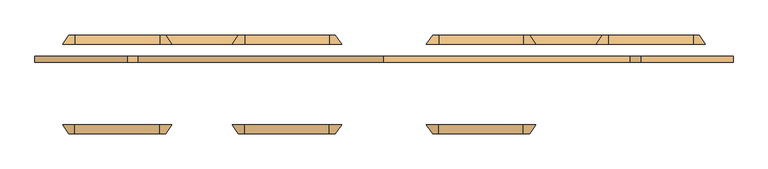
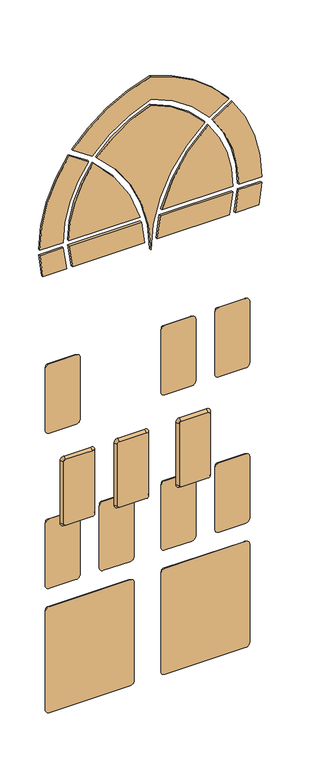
"""IFC4 building model written with IfcOpenShell, lengths in millimetres: door geometry, ETC Arabic Door : ETC Arabic Door."""

from ifc_helpers import new_model, si_unit, point, frame, frame_2d, origin, place, context, project, spatial, polyline, circle_curve, trimmed, segment, composite_curve, outline, extrude, source, transform, mapped, element, save
from ifc_brep_helpers import plane_surface, revolved_surface, advanced_brep


def door_a8ad100a(model_context):
    return source(origin(), model_context, "Body", "SolidModel", [
        advanced_brep(
        [(-370.0, 172.5, 1610.0), (-510.0, 172.5, 1610.0), (-520.0, 172.5, 1620.0), (-520.0, 172.5, 1960.0), (-510.0, 172.5, 1970.0), (-370.0, 172.5, 1970.0), (-360.0, 172.5, 1960.0), (-360.0, 172.5, 1620.0), (-370.0, 157.5, 1600.0), (-350.0, 157.5, 1620.0), (-350.0, 157.5, 1960.0), (-370.0, 157.5, 1980.0), (-510.0, 157.5, 1980.0), (-530.0, 157.5, 1960.0), (-530.0, 157.5, 1620.0), (-510.0, 157.5, 1600.0)],
        [
            (0, 1),
            (1, 2, circle_curve(frame((-510.0, 172.5, 1620.0), z_axis=(0.0, 1.0, 0.0), x_axis=(0.0, 0.0, -1.0)), 10.0)),
            (2, 3),
            (3, 4, circle_curve(frame((-510.0, 172.5, 1960.0), z_axis=(0.0, 1.0, 0.0), x_axis=(-1.0, 0.0, 0.0)), 10.0)),
            (4, 5),
            (5, 6, circle_curve(frame((-370.0, 172.5, 1960.0), z_axis=(0.0, 1.0, 0.0), x_axis=(0.0, 0.0, 1.0)), 10.0)),
            (6, 7),
            (7, 0, circle_curve(frame((-370.0, 172.5, 1620.0), z_axis=(0.0, 1.0, 0.0), x_axis=(1.0, 0.0, 0.0)), 10.0)),
            (8, 9, circle_curve(frame((-370.0, 157.5, 1620.0), z_axis=(0.0, -1.0, 0.0), x_axis=(1.0, 0.0, 0.0)), 20.0)),
            (9, 10),
            (10, 11, circle_curve(frame((-370.0, 157.5, 1960.0), z_axis=(0.0, -1.0, 0.0), x_axis=(0.0, 0.0, 1.0)), 20.0)),
            (11, 12),
            (12, 13, circle_curve(frame((-510.0, 157.5, 1960.0), z_axis=(0.0, -1.0, 0.0), x_axis=(-1.0, 0.0, 0.0)), 20.0)),
            (13, 14),
            (14, 15, circle_curve(frame((-510.0, 157.5, 1620.0), z_axis=(0.0, -1.0, 0.0), x_axis=(0.0, 0.0, -1.0)), 20.0)),
            (15, 8),
            (15, 1),
            (0, 8),
            (14, 2),
            (13, 3),
            (12, 4),
            (11, 5),
            (10, 6),
            (9, 7),
        ],
        [
            plane_surface(frame((-440.0, 172.5, 1790.0), z_axis=(0.0, 1.0, 0.0), x_axis=(1.0, 0.0, 0.0))),
            plane_surface(frame((-440.0, 157.5, 1790.0), z_axis=(0.0, -1.0, 0.0), x_axis=(1.0, 0.0, 0.0))),
            plane_surface(frame((-440.0, 157.5, 1600.0), z_axis=(0.0, 0.5547001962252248, -0.8320502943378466), x_axis=(-1.0, 0.0, 0.0))),
            revolved_surface(polyline([(-510.0, 172.5, 1610.0), (-510.0, 157.5, 1600.0)]), (-510.0, 187.5, 1620.0), (0.0, -1.0, 0.0)),
            plane_surface(frame((-530.0, 157.5, 1790.0), z_axis=(-0.8320502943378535, 0.5547001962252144, 0.0), x_axis=(0.0, 0.0, 1.0))),
            revolved_surface(polyline([(-520.0, 172.5, 1960.0), (-530.0, 157.5, 1960.0)]), (-510.0, 187.5, 1960.0), (0.0, -1.0, 0.0)),
            plane_surface(frame((-440.0, 157.5, 1980.0), z_axis=(0.0, 0.5547001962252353, 0.8320502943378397), x_axis=(1.0, 0.0, 0.0))),
            revolved_surface(polyline([(-370.0, 172.5, 1970.0), (-370.0, 157.5, 1980.0)]), (-370.0, 187.5, 1960.0), (0.0, -1.0, 0.0)),
            plane_surface(frame((-350.0, 157.5, 1790.0), z_axis=(0.832050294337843, 0.55470019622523, 0.0), x_axis=(0.0, 0.0, -1.0))),
            revolved_surface(polyline([(-360.0, 172.5, 1620.0), (-350.0, 157.5, 1620.0)]), (-370.0, 187.5, 1620.0), (0.0, -1.0, 0.0)),
        ],
        [
            (0, [[1, 2, 3, 4, 5, 6, 7, 8]]),
            (1, [[9, 10, 11, 12, 13, 14, 15, 16]]),
            (2, [[-16, 17, -1, 18]]),
            (3, [[-15, 19, -2, -17]]),
            (4, [[-14, 20, -3, -19]]),
            (5, [[-13, 21, -4, -20]]),
            (6, [[-12, 22, -5, -21]]),
            (7, [[-11, 23, -6, -22]]),
            (8, [[-10, 24, -7, -23]]),
            (9, [[-9, -18, -8, -24]]),
        ],
    ),
        advanced_brep(
        [(-90.0, 172.5, 760.0), (-230.0, 172.5, 760.0), (-240.0, 172.5, 770.0), (-240.0, 172.5, 1110.0), (-230.0, 172.5, 1120.0), (-90.0, 172.5, 1120.0), (-80.0, 172.5, 1110.0), (-80.0, 172.5, 770.0), (-90.0, 157.5, 750.0), (-70.0, 157.5, 770.0), (-70.0, 157.5, 1110.0), (-90.0, 157.5, 1130.0), (-230.0, 157.5, 1130.0), (-250.0, 157.5, 1110.0), (-250.0, 157.5, 770.0), (-230.0, 157.5, 750.0)],
        [
            (0, 1),
            (1, 2, circle_curve(frame((-230.0, 172.5, 770.0), z_axis=(0.0, 1.0, 0.0), x_axis=(0.0, 0.0, -1.0)), 10.0)),
            (2, 3),
            (3, 4, circle_curve(frame((-230.0, 172.5, 1110.0), z_axis=(0.0, 1.0, 0.0), x_axis=(-1.0, 0.0, 0.0)), 10.0)),
            (4, 5),
            (5, 6, circle_curve(frame((-90.0, 172.5, 1110.0), z_axis=(0.0, 1.0, 0.0), x_axis=(0.0, 0.0, 1.0)), 10.0)),
            (6, 7),
            (7, 0, circle_curve(frame((-90.0, 172.5, 770.0), z_axis=(0.0, 1.0, 0.0), x_axis=(1.0, 0.0, 0.0)), 10.0)),
            (8, 9, circle_curve(frame((-90.0, 157.5, 770.0), z_axis=(0.0, -1.0, 0.0), x_axis=(1.0, 0.0, 0.0)), 20.0)),
            (9, 10),
            (10, 11, circle_curve(frame((-90.0, 157.5, 1110.0), z_axis=(0.0, -1.0, 0.0), x_axis=(0.0, 0.0, 1.0)), 20.0)),
            (11, 12),
            (12, 13, circle_curve(frame((-230.0, 157.5, 1110.0), z_axis=(0.0, -1.0, 0.0), x_axis=(-1.0, 0.0, 0.0)), 20.0)),
            (13, 14),
            (14, 15, circle_curve(frame((-230.0, 157.5, 770.0), z_axis=(0.0, -1.0, 0.0), x_axis=(0.0, 0.0, -1.0)), 20.0)),
            (15, 8),
            (15, 1),
            (0, 8),
            (14, 2),
            (13, 3),
            (12, 4),
            (11, 5),
            (10, 6),
            (9, 7),
        ],
        [
            plane_surface(frame((-160.0, 172.5, 940.0), z_axis=(0.0, 1.0, 0.0), x_axis=(1.0, 0.0, 0.0))),
            plane_surface(frame((-160.0, 157.5, 940.0), z_axis=(0.0, -1.0, 0.0), x_axis=(1.0, 0.0, 0.0))),
            plane_surface(frame((-160.0, 157.5, 750.0), z_axis=(0.0, 0.5547001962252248, -0.8320502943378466), x_axis=(-1.0, 0.0, 0.0))),
            revolved_surface(polyline([(-230.0, 172.5, 760.0), (-230.0, 157.5, 750.0)]), (-230.0, 187.5, 770.0), (0.0, -1.0, 0.0)),
            plane_surface(frame((-250.0, 157.5, 940.0), z_axis=(-0.8320502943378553, 0.5547001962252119, 0.0), x_axis=(0.0, 0.0, 1.0))),
            revolved_surface(polyline([(-240.0, 172.5, 1110.0), (-250.0, 157.5, 1110.0)]), (-230.0, 187.5, 1110.0), (0.0, -1.0, 0.0)),
            plane_surface(frame((-160.0, 157.5, 1130.0), z_axis=(0.0, 0.5547001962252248, 0.8320502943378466), x_axis=(1.0, 0.0, 0.0))),
            revolved_surface(polyline([(-90.0, 172.5, 1120.0), (-90.0, 157.5, 1130.0)]), (-90.0, 187.5, 1110.0), (0.0, -1.0, 0.0)),
            plane_surface(frame((-70.0, 157.5, 940.0), z_axis=(0.832050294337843, 0.55470019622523, 0.0), x_axis=(0.0, 0.0, -1.0))),
            revolved_surface(polyline([(-80.0, 172.5, 770.0), (-70.0, 157.5, 770.0)]), (-90.0, 187.5, 770.0), (0.0, -1.0, 0.0)),
        ],
        [
            (0, [[1, 2, 3, 4, 5, 6, 7, 8]]),
            (1, [[9, 10, 11, 12, 13, 14, 15, 16]]),
            (2, [[-16, 17, -1, 18]]),
            (3, [[-15, 19, -2, -17]]),
            (4, [[-14, 20, -3, -19]]),
            (5, [[-13, 21, -4, -20]]),
            (6, [[-12, 22, -5, -21]]),
            (7, [[-11, 23, -6, -22]]),
            (8, [[-10, 24, -7, -23]]),
            (9, [[-9, -18, -8, -24]]),
        ],
    ),
        advanced_brep(
        [(-370.0, 172.5, 760.0), (-510.0, 172.5, 760.0), (-520.0, 172.5, 770.0), (-520.0, 172.5, 1110.0), (-510.0, 172.5, 1120.0), (-370.0, 172.5, 1120.0), (-360.0, 172.5, 1110.0), (-360.0, 172.5, 770.0), (-370.0, 157.5, 750.0), (-350.0, 157.5, 770.0), (-350.0, 157.5, 1110.0), (-370.0, 157.5, 1130.0), (-510.0, 157.5, 1130.0), (-530.0, 157.5, 1110.0), (-530.0, 157.5, 770.0), (-510.0, 157.5, 750.0)],
        [
            (0, 1),
            (1, 2, circle_curve(frame((-510.0, 172.5, 770.0), z_axis=(0.0, 1.0, 0.0), x_axis=(0.0, 0.0, -1.0)), 10.0)),
            (2, 3),
            (3, 4, circle_curve(frame((-510.0, 172.5, 1110.0), z_axis=(0.0, 1.0, 0.0), x_axis=(-1.0, 0.0, 0.0)), 10.0)),
            (4, 5),
            (5, 6, circle_curve(frame((-370.0, 172.5, 1110.0), z_axis=(0.0, 1.0, 0.0), x_axis=(0.0, 0.0, 1.0)), 10.0)),
            (6, 7),
            (7, 0, circle_curve(frame((-370.0, 172.5, 770.0), z_axis=(0.0, 1.0, 0.0), x_axis=(1.0, 0.0, 0.0)), 10.0)),
            (8, 9, circle_curve(frame((-370.0, 157.5, 770.0), z_axis=(0.0, -1.0, 0.0), x_axis=(1.0, 0.0, 0.0)), 20.0)),
            (9, 10),
            (10, 11, circle_curve(frame((-370.0, 157.5, 1110.0), z_axis=(0.0, -1.0, 0.0), x_axis=(0.0, 0.0, 1.0)), 20.0)),
            (11, 12),
            (12, 13, circle_curve(frame((-510.0, 157.5, 1110.0), z_axis=(0.0, -1.0, 0.0), x_axis=(-1.0, 0.0, 0.0)), 20.0)),
            (13, 14),
            (14, 15, circle_curve(frame((-510.0, 157.5, 770.0), z_axis=(0.0, -1.0, 0.0), x_axis=(0.0, 0.0, -1.0)), 20.0)),
            (15, 8),
            (15, 1),
            (0, 8),
            (14, 2),
            (13, 3),
            (12, 4),
            (11, 5),
            (10, 6),
            (9, 7),
        ],
        [
            plane_surface(frame((-440.0, 172.5, 940.0), z_axis=(0.0, 1.0, 0.0), x_axis=(1.0, 0.0, 0.0))),
            plane_surface(frame((-440.0, 157.5, 940.0), z_axis=(0.0, -1.0, 0.0), x_axis=(1.0, 0.0, 0.0))),
            plane_surface(frame((-440.0, 157.5, 750.0), z_axis=(0.0, 0.5547001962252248, -0.8320502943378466), x_axis=(-1.0, 0.0, 0.0))),
            revolved_surface(polyline([(-510.0, 172.5, 760.0), (-510.0, 157.5, 750.0)]), (-510.0, 187.5, 770.0), (0.0, -1.0, 0.0)),
            plane_surface(frame((-530.0, 157.5, 940.0), z_axis=(-0.8320502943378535, 0.5547001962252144, 0.0), x_axis=(0.0, 0.0, 1.0))),
            revolved_surface(polyline([(-520.0, 172.5, 1110.0), (-530.0, 157.5, 1110.0)]), (-510.0, 187.5, 1110.0), (0.0, -1.0, 0.0)),
            plane_surface(frame((-440.0, 157.5, 1130.0), z_axis=(0.0, 0.5547001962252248, 0.8320502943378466), x_axis=(1.0, 0.0, 0.0))),
            revolved_surface(polyline([(-370.0, 172.5, 1120.0), (-370.0, 157.5, 1130.0)]), (-370.0, 187.5, 1110.0), (0.0, -1.0, 0.0)),
            plane_surface(frame((-350.0, 157.5, 940.0), z_axis=(0.832050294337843, 0.55470019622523, 0.0), x_axis=(0.0, 0.0, -1.0))),
            revolved_surface(polyline([(-360.0, 172.5, 770.0), (-350.0, 157.5, 770.0)]), (-370.0, 187.5, 770.0), (0.0, -1.0, 0.0)),
        ],
        [
            (0, [[1, 2, 3, 4, 5, 6, 7, 8]]),
            (1, [[9, 10, 11, 12, 13, 14, 15, 16]]),
            (2, [[-16, 17, -1, 18]]),
            (3, [[-15, 19, -2, -17]]),
            (4, [[-14, 20, -3, -19]]),
            (5, [[-13, 21, -4, -20]]),
            (6, [[-12, 22, -5, -21]]),
            (7, [[-11, 23, -6, -22]]),
            (8, [[-10, 24, -7, -23]]),
            (9, [[-9, -18, -8, -24]]),
        ],
    ),
        advanced_brep(
        [(90.0, 172.5, 1610.0), (80.0, 172.5, 1620.0), (80.0, 172.5, 1960.0), (90.0, 172.5, 1970.0), (230.0, 172.5, 1970.0), (240.0, 172.5, 1960.0), (240.0, 172.5, 1620.0), (230.0, 172.5, 1610.0), (90.0, 157.5, 1600.0), (230.0, 157.5, 1600.0), (250.0, 157.5, 1620.0), (250.0, 157.5, 1960.0), (230.0, 157.5, 1980.0), (90.0, 157.5, 1980.0), (70.0, 157.5, 1960.0), (70.0, 157.5, 1620.0)],
        [
            (0, 1, circle_curve(frame((90.0, 172.5, 1620.0), z_axis=(0.0, 1.0, 0.0), x_axis=(0.0, 0.0, -1.0)), 10.0)),
            (1, 2),
            (2, 3, circle_curve(frame((90.0, 172.5, 1960.0), z_axis=(0.0, 1.0, 0.0), x_axis=(-1.0, 0.0, 0.0)), 10.0)),
            (3, 4),
            (4, 5, circle_curve(frame((230.0, 172.5, 1960.0), z_axis=(0.0, 1.0, 0.0), x_axis=(0.0, 0.0, 1.0)), 10.0)),
            (5, 6),
            (6, 7, circle_curve(frame((230.0, 172.5, 1620.0), z_axis=(0.0, 1.0, 0.0), x_axis=(1.0, 0.0, 0.0)), 10.0)),
            (7, 0),
            (8, 9),
            (9, 10, circle_curve(frame((230.0, 157.5, 1620.0), z_axis=(0.0, -1.0, 0.0), x_axis=(1.0, 0.0, 0.0)), 20.0)),
            (10, 11),
            (11, 12, circle_curve(frame((230.0, 157.5, 1960.0), z_axis=(0.0, -1.0, 0.0), x_axis=(0.0, 0.0, 1.0)), 20.0)),
            (12, 13),
            (13, 14, circle_curve(frame((90.0, 157.5, 1960.0), z_axis=(0.0, -1.0, 0.0), x_axis=(-1.0, 0.0, 0.0)), 20.0)),
            (14, 15),
            (15, 8, circle_curve(frame((90.0, 157.5, 1620.0), z_axis=(0.0, -1.0, 0.0), x_axis=(0.0, 0.0, -1.0)), 20.0)),
            (15, 1),
            (0, 8),
            (14, 2),
            (13, 3),
            (12, 4),
            (11, 5),
            (10, 6),
            (9, 7),
        ],
        [
            plane_surface(frame((160.0, 172.5, 1790.0), z_axis=(0.0, 1.0, 0.0), x_axis=(1.0, 0.0, 0.0))),
            plane_surface(frame((160.0, 157.5, 1790.0), z_axis=(0.0, -1.0, 0.0), x_axis=(1.0, 0.0, 0.0))),
            revolved_surface(polyline([(90.0, 172.5, 1610.0), (90.0, 157.5, 1600.0)]), (90.0, 187.5, 1620.0), (0.0, -1.0, 0.0)),
            plane_surface(frame((70.0, 157.5, 1790.0), z_axis=(-0.832050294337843, 0.55470019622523, 0.0), x_axis=(0.0, 0.0, 1.0))),
            revolved_surface(polyline([(80.0, 172.5, 1960.0), (70.0, 157.5, 1960.0)]), (90.0, 187.5, 1960.0), (0.0, -1.0, 0.0)),
            plane_surface(frame((160.0, 157.5, 1980.0), z_axis=(0.0, 0.5547001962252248, 0.8320502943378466), x_axis=(1.0, 0.0, 0.0))),
            revolved_surface(polyline([(230.0, 172.5, 1970.0), (230.0, 157.5, 1980.0)]), (230.0, 187.5, 1960.0), (0.0, -1.0, 0.0)),
            plane_surface(frame((250.0, 157.5, 1790.0), z_axis=(0.8320502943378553, 0.5547001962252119, 0.0), x_axis=(0.0, 0.0, -1.0))),
            revolved_surface(polyline([(240.0, 172.5, 1620.0), (250.0, 157.5, 1620.0)]), (230.0, 187.5, 1620.0), (0.0, -1.0, 0.0)),
            plane_surface(frame((160.0, 157.5, 1600.0), z_axis=(0.0, 0.5547001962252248, -0.8320502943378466), x_axis=(-1.0, 0.0, 0.0))),
        ],
        [
            (0, [[1, 2, 3, 4, 5, 6, 7, 8]]),
            (1, [[9, 10, 11, 12, 13, 14, 15, 16]]),
            (2, [[-16, 17, -1, 18]]),
            (3, [[-15, 19, -2, -17]]),
            (4, [[-14, 20, -3, -19]]),
            (5, [[-13, 21, -4, -20]]),
            (6, [[-12, 22, -5, -21]]),
            (7, [[-11, 23, -6, -22]]),
            (8, [[-10, 24, -7, -23]]),
            (9, [[-9, -18, -8, -24]]),
        ],
    ),
        advanced_brep(
        [(370.0, 172.5, 1610.0), (360.0, 172.5, 1620.0), (360.0, 172.5, 1960.0), (370.0, 172.5, 1970.0), (510.0, 172.5, 1970.0), (520.0, 172.5, 1960.0), (520.0, 172.5, 1620.0), (510.0, 172.5, 1610.0), (370.0, 157.5, 1600.0), (510.0, 157.5, 1600.0), (530.0, 157.5, 1620.0), (530.0, 157.5, 1960.0), (510.0, 157.5, 1980.0), (370.0, 157.5, 1980.0), (350.0, 157.5, 1960.0), (350.0, 157.5, 1620.0)],
        [
            (0, 1, circle_curve(frame((370.0, 172.5, 1620.0), z_axis=(0.0, 1.0, 0.0), x_axis=(0.0, 0.0, -1.0)), 10.0)),
            (1, 2),
            (2, 3, circle_curve(frame((370.0, 172.5, 1960.0), z_axis=(0.0, 1.0, 0.0), x_axis=(-1.0, 0.0, 0.0)), 10.0)),
            (3, 4),
            (4, 5, circle_curve(frame((510.0, 172.5, 1960.0), z_axis=(0.0, 1.0, 0.0), x_axis=(0.0, 0.0, 1.0)), 10.0)),
            (5, 6),
            (6, 7, circle_curve(frame((510.0, 172.5, 1620.0), z_axis=(0.0, 1.0, 0.0), x_axis=(1.0, 0.0, 0.0)), 10.0)),
            (7, 0),
            (8, 9),
            (9, 10, circle_curve(frame((510.0, 157.5, 1620.0), z_axis=(0.0, -1.0, 0.0), x_axis=(1.0, 0.0, 0.0)), 20.0)),
            (10, 11),
            (11, 12, circle_curve(frame((510.0, 157.5, 1960.0), z_axis=(0.0, -1.0, 0.0), x_axis=(0.0, 0.0, 1.0)), 20.0)),
            (12, 13),
            (13, 14, circle_curve(frame((370.0, 157.5, 1960.0), z_axis=(0.0, -1.0, 0.0), x_axis=(-1.0, 0.0, 0.0)), 20.0)),
            (14, 15),
            (15, 8, circle_curve(frame((370.0, 157.5, 1620.0), z_axis=(0.0, -1.0, 0.0), x_axis=(0.0, 0.0, -1.0)), 20.0)),
            (15, 1),
            (0, 8),
            (14, 2),
            (13, 3),
            (12, 4),
            (11, 5),
            (10, 6),
            (9, 7),
        ],
        [
            plane_surface(frame((440.0, 172.5, 1790.0), z_axis=(0.0, 1.0, 0.0), x_axis=(1.0, 0.0, 0.0))),
            plane_surface(frame((440.0, 157.5, 1790.0), z_axis=(0.0, -1.0, 0.0), x_axis=(1.0, 0.0, 0.0))),
            revolved_surface(polyline([(370.0, 172.5, 1610.0), (370.0, 157.5, 1600.0)]), (370.0, 187.5, 1620.0), (0.0, -1.0, 0.0)),
            plane_surface(frame((350.0, 157.5, 1790.0), z_axis=(-0.832050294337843, 0.55470019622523, 0.0), x_axis=(0.0, 0.0, 1.0))),
            revolved_surface(polyline([(360.0, 172.5, 1960.0), (350.0, 157.5, 1960.0)]), (370.0, 187.5, 1960.0), (0.0, -1.0, 0.0)),
            plane_surface(frame((440.0, 157.5, 1980.0), z_axis=(0.0, 0.5547001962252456, 0.8320502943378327), x_axis=(1.0, 0.0, 0.0))),
            revolved_surface(polyline([(510.0, 172.5, 1970.0), (510.0, 157.5, 1980.0)]), (510.0, 187.5, 1960.0), (0.0, -1.0, 0.0)),
            plane_surface(frame((530.0, 157.5, 1790.0), z_axis=(0.8320502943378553, 0.5547001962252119, 0.0), x_axis=(0.0, 0.0, -1.0))),
            revolved_surface(polyline([(520.0, 172.5, 1620.0), (530.0, 157.5, 1620.0)]), (510.0, 187.5, 1620.0), (0.0, -1.0, 0.0)),
            plane_surface(frame((440.0, 157.5, 1600.0), z_axis=(0.0, 0.5547001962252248, -0.8320502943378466), x_axis=(-1.0, 0.0, 0.0))),
        ],
        [
            (0, [[1, 2, 3, 4, 5, 6, 7, 8]]),
            (1, [[9, 10, 11, 12, 13, 14, 15, 16]]),
            (2, [[-16, 17, -1, 18]]),
            (3, [[-15, 19, -2, -17]]),
            (4, [[-14, 20, -3, -19]]),
            (5, [[-13, 21, -4, -20]]),
            (6, [[-12, 22, -5, -21]]),
            (7, [[-11, 23, -6, -22]]),
            (8, [[-10, 24, -7, -23]]),
            (9, [[-9, -18, -8, -24]]),
        ],
    ),
        advanced_brep(
        [(90.0, 172.5, 760.0), (80.0, 172.5, 770.0), (80.0, 172.5, 1110.0), (90.0, 172.5, 1120.0), (230.0, 172.5, 1120.0), (240.0, 172.5, 1110.0), (240.0, 172.5, 770.0), (230.0, 172.5, 760.0), (90.0, 157.5, 750.0), (230.0, 157.5, 750.0), (250.0, 157.5, 770.0), (250.0, 157.5, 1110.0), (230.0, 157.5, 1130.0), (90.0, 157.5, 1130.0), (70.0, 157.5, 1110.0), (70.0, 157.5, 770.0)],
        [
            (0, 1, circle_curve(frame((90.0, 172.5, 770.0), z_axis=(0.0, 1.0, 0.0), x_axis=(0.0, 0.0, -1.0)), 10.0)),
            (1, 2),
            (2, 3, circle_curve(frame((90.0, 172.5, 1110.0), z_axis=(0.0, 1.0, 0.0), x_axis=(-1.0, 0.0, 0.0)), 10.0)),
            (3, 4),
            (4, 5, circle_curve(frame((230.0, 172.5, 1110.0), z_axis=(0.0, 1.0, 0.0), x_axis=(0.0, 0.0, 1.0)), 10.0)),
            (5, 6),
            (6, 7, circle_curve(frame((230.0, 172.5, 770.0), z_axis=(0.0, 1.0, 0.0), x_axis=(1.0, 0.0, 0.0)), 10.0)),
            (7, 0),
            (8, 9),
            (9, 10, circle_curve(frame((230.0, 157.5, 770.0), z_axis=(0.0, -1.0, 0.0), x_axis=(1.0, 0.0, 0.0)), 20.0)),
            (10, 11),
            (11, 12, circle_curve(frame((230.0, 157.5, 1110.0), z_axis=(0.0, -1.0, 0.0), x_axis=(0.0, 0.0, 1.0)), 20.0)),
            (12, 13),
            (13, 14, circle_curve(frame((90.0, 157.5, 1110.0), z_axis=(0.0, -1.0, 0.0), x_axis=(-1.0, 0.0, 0.0)), 20.0)),
            (14, 15),
            (15, 8, circle_curve(frame((90.0, 157.5, 770.0), z_axis=(0.0, -1.0, 0.0), x_axis=(0.0, 0.0, -1.0)), 20.0)),
            (15, 1),
            (0, 8),
            (14, 2),
            (13, 3),
            (12, 4),
            (11, 5),
            (10, 6),
            (9, 7),
        ],
        [
            plane_surface(frame((160.0, 172.5, 940.0), z_axis=(0.0, 1.0, 0.0), x_axis=(1.0, 0.0, 0.0))),
            plane_surface(frame((160.0, 157.5, 940.0), z_axis=(0.0, -1.0, 0.0), x_axis=(1.0, 0.0, 0.0))),
            revolved_surface(polyline([(90.0, 172.5, 760.0), (90.0, 157.5, 750.0)]), (90.0, 187.5, 770.0), (0.0, -1.0, 0.0)),
            plane_surface(frame((70.0, 157.5, 940.0), z_axis=(-0.832050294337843, 0.55470019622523, 0.0), x_axis=(0.0, 0.0, 1.0))),
            revolved_surface(polyline([(80.0, 172.5, 1110.0), (70.0, 157.5, 1110.0)]), (90.0, 187.5, 1110.0), (0.0, -1.0, 0.0)),
            plane_surface(frame((160.0, 157.5, 1130.0), z_axis=(0.0, 0.55470019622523, 0.832050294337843), x_axis=(1.0, 0.0, 0.0))),
            revolved_surface(polyline([(230.0, 172.5, 1120.0), (230.0, 157.5, 1130.0)]), (230.0, 187.5, 1110.0), (0.0, -1.0, 0.0)),
            plane_surface(frame((250.0, 157.5, 940.0), z_axis=(0.8320502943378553, 0.5547001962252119, 0.0), x_axis=(0.0, 0.0, -1.0))),
            revolved_surface(polyline([(240.0, 172.5, 770.0), (250.0, 157.5, 770.0)]), (230.0, 187.5, 770.0), (0.0, -1.0, 0.0)),
            plane_surface(frame((160.0, 157.5, 750.0), z_axis=(0.0, 0.55470019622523, -0.832050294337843), x_axis=(-1.0, 0.0, 0.0))),
        ],
        [
            (0, [[1, 2, 3, 4, 5, 6, 7, 8]]),
            (1, [[9, 10, 11, 12, 13, 14, 15, 16]]),
            (2, [[-16, 17, -1, 18]]),
            (3, [[-15, 19, -2, -17]]),
            (4, [[-14, 20, -3, -19]]),
            (5, [[-13, 21, -4, -20]]),
            (6, [[-12, 22, -5, -21]]),
            (7, [[-11, 23, -6, -22]]),
            (8, [[-10, 24, -7, -23]]),
            (9, [[-9, -18, -8, -24]]),
        ],
    ),
        advanced_brep(
        [(370.0, 172.5, 760.0), (360.0, 172.5, 770.0), (360.0, 172.5, 1110.0), (370.0, 172.5, 1120.0), (510.0, 172.5, 1120.0), (520.0, 172.5, 1110.0), (520.0, 172.5, 770.0), (510.0, 172.5, 760.0), (370.0, 157.5, 750.0), (510.0, 157.5, 750.0), (530.0, 157.5, 770.0), (530.0, 157.5, 1110.0), (510.0, 157.5, 1130.0), (370.0, 157.5, 1130.0), (350.0, 157.5, 1110.0), (350.0, 157.5, 770.0)],
        [
            (0, 1, circle_curve(frame((370.0, 172.5, 770.0), z_axis=(0.0, 1.0, 0.0), x_axis=(0.0, 0.0, -1.0)), 10.0)),
            (1, 2),
            (2, 3, circle_curve(frame((370.0, 172.5, 1110.0), z_axis=(0.0, 1.0, 0.0), x_axis=(-1.0, 0.0, 0.0)), 10.0)),
            (3, 4),
            (4, 5, circle_curve(frame((510.0, 172.5, 1110.0), z_axis=(0.0, 1.0, 0.0), x_axis=(0.0, 0.0, 1.0)), 10.0)),
            (5, 6),
            (6, 7, circle_curve(frame((510.0, 172.5, 770.0), z_axis=(0.0, 1.0, 0.0), x_axis=(1.0, 0.0, 0.0)), 10.0)),
            (7, 0),
            (8, 9),
            (9, 10, circle_curve(frame((510.0, 157.5, 770.0), z_axis=(0.0, -1.0, 0.0), x_axis=(1.0, 0.0, 0.0)), 20.0)),
            (10, 11),
            (11, 12, circle_curve(frame((510.0, 157.5, 1110.0), z_axis=(0.0, -1.0, 0.0), x_axis=(0.0, 0.0, 1.0)), 20.0)),
            (12, 13),
            (13, 14, circle_curve(frame((370.0, 157.5, 1110.0), z_axis=(0.0, -1.0, 0.0), x_axis=(-1.0, 0.0, 0.0)), 20.0)),
            (14, 15),
            (15, 8, circle_curve(frame((370.0, 157.5, 770.0), z_axis=(0.0, -1.0, 0.0), x_axis=(0.0, 0.0, -1.0)), 20.0)),
            (15, 1),
            (0, 8),
            (14, 2),
            (13, 3),
            (12, 4),
            (11, 5),
            (10, 6),
            (9, 7),
        ],
        [
            plane_surface(frame((440.0, 172.5, 940.0), z_axis=(0.0, 1.0, 0.0), x_axis=(1.0, 0.0, 0.0))),
            plane_surface(frame((440.0, 157.5, 940.0), z_axis=(0.0, -1.0, 0.0), x_axis=(1.0, 0.0, 0.0))),
            revolved_surface(polyline([(370.0, 172.5, 760.0), (370.0, 157.5, 750.0)]), (370.0, 187.5, 770.0), (0.0, -1.0, 0.0)),
            plane_surface(frame((350.0, 157.5, 940.0), z_axis=(-0.832050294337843, 0.55470019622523, 0.0), x_axis=(0.0, 0.0, 1.0))),
            revolved_surface(polyline([(360.0, 172.5, 1110.0), (350.0, 157.5, 1110.0)]), (370.0, 187.5, 1110.0), (0.0, -1.0, 0.0)),
            plane_surface(frame((440.0, 157.5, 1130.0), z_axis=(0.0, 0.55470019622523, 0.832050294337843), x_axis=(1.0, 0.0, 0.0))),
            revolved_surface(polyline([(510.0, 172.5, 1120.0), (510.0, 157.5, 1130.0)]), (510.0, 187.5, 1110.0), (0.0, -1.0, 0.0)),
            plane_surface(frame((530.0, 157.5, 940.0), z_axis=(0.8320502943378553, 0.5547001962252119, 0.0), x_axis=(0.0, 0.0, -1.0))),
            revolved_surface(polyline([(520.0, 172.5, 770.0), (530.0, 157.5, 770.0)]), (510.0, 187.5, 770.0), (0.0, -1.0, 0.0)),
            plane_surface(frame((440.0, 157.5, 750.0), z_axis=(0.0, 0.55470019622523, -0.832050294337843), x_axis=(-1.0, 0.0, 0.0))),
        ],
        [
            (0, [[1, 2, 3, 4, 5, 6, 7, 8]]),
            (1, [[9, 10, 11, 12, 13, 14, 15, 16]]),
            (2, [[-16, 17, -1, 18]]),
            (3, [[-15, 19, -2, -17]]),
            (4, [[-14, 20, -3, -19]]),
            (5, [[-13, 21, -4, -20]]),
            (6, [[-12, 22, -5, -21]]),
            (7, [[-11, 23, -6, -22]]),
            (8, [[-10, 24, -7, -23]]),
            (9, [[-9, -18, -8, -24]]),
        ],
    ),
        advanced_brep(
        [(-90.0, 172.5, 80.0), (-510.0, 172.5, 80.0), (-520.0, 172.5, 90.0), (-520.0, 172.5, 630.0), (-510.0, 172.5, 640.0), (-90.0, 172.5, 640.0), (-80.0, 172.5, 630.0), (-80.0, 172.5, 90.0), (-90.0, 157.5, 70.0), (-70.0, 157.5, 90.0), (-70.0, 157.5, 630.0), (-90.0, 157.5, 650.0), (-510.0, 157.5, 650.0), (-530.0, 157.5, 630.0), (-530.0, 157.5, 90.0), (-510.0, 157.5, 70.0)],
        [
            (0, 1),
            (1, 2, circle_curve(frame((-510.0, 172.5, 90.0), z_axis=(0.0, 1.0, 0.0), x_axis=(0.0, 0.0, -1.0)), 10.0)),
            (2, 3),
            (3, 4, circle_curve(frame((-510.0, 172.5, 630.0), z_axis=(0.0, 1.0, 0.0), x_axis=(-1.0, 0.0, 0.0)), 10.0)),
            (4, 5),
            (5, 6, circle_curve(frame((-90.0, 172.5, 630.0), z_axis=(0.0, 1.0, 0.0), x_axis=(0.0, 0.0, 1.0)), 10.0)),
            (6, 7),
            (7, 0, circle_curve(frame((-90.0, 172.5, 90.0), z_axis=(0.0, 1.0, 0.0), x_axis=(1.0, 0.0, 0.0)), 10.0)),
            (8, 9, circle_curve(frame((-90.0, 157.5, 90.0), z_axis=(0.0, -1.0, 0.0), x_axis=(1.0, 0.0, 0.0)), 20.0)),
            (9, 10),
            (10, 11, circle_curve(frame((-90.0, 157.5, 630.0), z_axis=(0.0, -1.0, 0.0), x_axis=(0.0, 0.0, 1.0)), 20.0)),
            (11, 12),
            (12, 13, circle_curve(frame((-510.0, 157.5, 630.0), z_axis=(0.0, -1.0, 0.0), x_axis=(-1.0, 0.0, 0.0)), 20.0)),
            (13, 14),
            (14, 15, circle_curve(frame((-510.0, 157.5, 90.0), z_axis=(0.0, -1.0, 0.0), x_axis=(0.0, 0.0, -1.0)), 20.0)),
            (15, 8),
            (15, 1),
            (0, 8),
            (14, 2),
            (13, 3),
            (12, 4),
            (11, 5),
            (10, 6),
            (9, 7),
        ],
        [
            plane_surface(frame((-300.0, 172.5, 360.0), z_axis=(0.0, 1.0, 0.0), x_axis=(1.0, 0.0, 0.0))),
            plane_surface(frame((-300.0, 157.5, 360.0), z_axis=(0.0, -1.0, 0.0), x_axis=(1.0, 0.0, 0.0))),
            plane_surface(frame((-300.0, 157.5, 70.0), z_axis=(0.0, 0.5547001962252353, -0.8320502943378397), x_axis=(-1.0, 0.0, 0.0))),
            revolved_surface(polyline([(-510.0, 172.5, 80.0), (-510.0, 157.5, 70.0)]), (-510.0, 187.5, 90.0), (0.0, -1.0, 0.0)),
            plane_surface(frame((-530.0, 157.5, 360.0), z_axis=(-0.8320502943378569, 0.5547001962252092, 0.0), x_axis=(0.0, 0.0, 1.0))),
            revolved_surface(polyline([(-520.0, 172.5, 630.0), (-530.0, 157.5, 630.0)]), (-510.0, 187.5, 630.0), (0.0, -1.0, 0.0)),
            plane_surface(frame((-300.0, 157.5, 650.0), z_axis=(0.0, 0.5547001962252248, 0.8320502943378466), x_axis=(1.0, 0.0, 0.0))),
            revolved_surface(polyline([(-90.0, 172.5, 640.0), (-90.0, 157.5, 650.0)]), (-90.0, 187.5, 630.0), (0.0, -1.0, 0.0)),
            plane_surface(frame((-70.0, 157.5, 360.0), z_axis=(0.8320502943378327, 0.5547001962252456, 0.0), x_axis=(0.0, 0.0, -1.0))),
            revolved_surface(polyline([(-80.0, 172.5, 90.0), (-70.0, 157.5, 90.0)]), (-90.0, 187.5, 90.0), (0.0, -1.0, 0.0)),
        ],
        [
            (0, [[1, 2, 3, 4, 5, 6, 7, 8]]),
            (1, [[9, 10, 11, 12, 13, 14, 15, 16]]),
            (2, [[-16, 17, -1, 18]]),
            (3, [[-15, 19, -2, -17]]),
            (4, [[-14, 20, -3, -19]]),
            (5, [[-13, 21, -4, -20]]),
            (6, [[-12, 22, -5, -21]]),
            (7, [[-11, 23, -6, -22]]),
            (8, [[-10, 24, -7, -23]]),
            (9, [[-9, -18, -8, -24]]),
        ],
    ),
        advanced_brep(
        [(90.0, 172.5, 80.0), (80.0, 172.5, 90.0), (80.0, 172.5, 630.0), (90.0, 172.5, 640.0), (510.0, 172.5, 640.0), (520.0, 172.5, 630.0), (520.0, 172.5, 90.0), (510.0, 172.5, 80.0), (90.0, 157.5, 70.0), (510.0, 157.5, 70.0), (530.0, 157.5, 90.0), (530.0, 157.5, 630.0), (510.0, 157.5, 650.0), (90.0, 157.5, 650.0), (70.0, 157.5, 630.0), (70.0, 157.5, 90.0)],
        [
            (0, 1, circle_curve(frame((90.0, 172.5, 90.0), z_axis=(0.0, 1.0, 0.0), x_axis=(0.0, 0.0, -1.0)), 10.0)),
            (1, 2),
            (2, 3, circle_curve(frame((90.0, 172.5, 630.0), z_axis=(0.0, 1.0, 0.0), x_axis=(-1.0, 0.0, 0.0)), 10.0)),
            (3, 4),
            (4, 5, circle_curve(frame((510.0, 172.5, 630.0), z_axis=(0.0, 1.0, 0.0), x_axis=(0.0, 0.0, 1.0)), 10.0)),
            (5, 6),
            (6, 7, circle_curve(frame((510.0, 172.5, 90.0), z_axis=(0.0, 1.0, 0.0), x_axis=(1.0, 0.0, 0.0)), 10.0)),
            (7, 0),
            (8, 9),
            (9, 10, circle_curve(frame((510.0, 157.5, 90.0), z_axis=(0.0, -1.0, 0.0), x_axis=(1.0, 0.0, 0.0)), 20.0)),
            (10, 11),
            (11, 12, circle_curve(frame((510.0, 157.5, 630.0), z_axis=(0.0, -1.0, 0.0), x_axis=(0.0, 0.0, 1.0)), 20.0)),
            (12, 13),
            (13, 14, circle_curve(frame((90.0, 157.5, 630.0), z_axis=(0.0, -1.0, 0.0), x_axis=(-1.0, 0.0, 0.0)), 20.0)),
            (14, 15),
            (15, 8, circle_curve(frame((90.0, 157.5, 90.0), z_axis=(0.0, -1.0, 0.0), x_axis=(0.0, 0.0, -1.0)), 20.0)),
            (15, 1),
            (0, 8),
            (14, 2),
            (13, 3),
            (12, 4),
            (11, 5),
            (10, 6),
            (9, 7),
        ],
        [
            plane_surface(frame((300.0, 172.5, 360.0), z_axis=(0.0, 1.0, 0.0), x_axis=(1.0, 0.0, 0.0))),
            plane_surface(frame((300.0, 157.5, 360.0), z_axis=(0.0, -1.0, 0.0), x_axis=(1.0, 0.0, 0.0))),
            revolved_surface(polyline([(90.0, 172.5, 80.0), (90.0, 157.5, 70.0)]), (90.0, 187.5, 90.0), (0.0, -1.0, 0.0)),
            plane_surface(frame((70.0, 157.5, 360.0), z_axis=(-0.8320502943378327, 0.5547001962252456, 0.0), x_axis=(0.0, 0.0, 1.0))),
            revolved_surface(polyline([(80.0, 172.5, 630.0), (70.0, 157.5, 630.0)]), (90.0, 187.5, 630.0), (0.0, -1.0, 0.0)),
            plane_surface(frame((300.0, 157.5, 650.0), z_axis=(0.0, 0.55470019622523, 0.832050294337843), x_axis=(1.0, 0.0, 0.0))),
            revolved_surface(polyline([(510.0, 172.5, 640.0), (510.0, 157.5, 650.0)]), (510.0, 187.5, 630.0), (0.0, -1.0, 0.0)),
            plane_surface(frame((530.0, 157.5, 360.0), z_axis=(0.8320502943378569, 0.5547001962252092, 0.0), x_axis=(0.0, 0.0, -1.0))),
            revolved_surface(polyline([(520.0, 172.5, 90.0), (530.0, 157.5, 90.0)]), (510.0, 187.5, 90.0), (0.0, -1.0, 0.0)),
            plane_surface(frame((300.0, 157.5, 70.0), z_axis=(0.0, 0.5547001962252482, -0.832050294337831), x_axis=(-1.0, 0.0, 0.0))),
        ],
        [
            (0, [[1, 2, 3, 4, 5, 6, 7, 8]]),
            (1, [[9, 10, 11, 12, 13, 14, 15, 16]]),
            (2, [[-16, 17, -1, 18]]),
            (3, [[-15, 19, -2, -17]]),
            (4, [[-14, 20, -3, -19]]),
            (5, [[-13, 21, -4, -20]]),
            (6, [[-12, 22, -5, -21]]),
            (7, [[-11, 23, -6, -22]]),
            (8, [[-10, 24, -7, -23]]),
            (9, [[-9, -18, -8, -24]]),
        ],
    ),
        extrude(outline(composite_curve([segment(trimmed(circle_curve(frame_2d((2645.91897, 194.3801824)), 770.0), [point((3390.9802727, 0.0))], [point((3129.3939556, -404.9126829))], False, "CARTESIAN"), True, "CONTINUOUS"), segment(trimmed(circle_curve(frame_2d((2442.5470794, -785.0)), 785.0), [point((3129.3939556, -404.9126829))], [point((3063.0279289, -304.1377375))], True, "CARTESIAN"), True, "CONTINUOUS"), segment(trimmed(circle_curve(frame_2d((2645.91897, 194.3801824)), 650.0), [point((3063.0279289, -304.1377375))], [point((3266.1740342, 0.0))], True, "CARTESIAN"), True, "CONTINUOUS"), segment(trimmed(circle_curve(frame_2d((2645.91897, -194.3801824)), 650.0), [point((3266.1740342, 0.0))], [point((3063.0279289, 304.1377375))], True, "CARTESIAN"), True, "CONTINUOUS"), segment(trimmed(circle_curve(frame_2d((2442.5470794, 785.0)), 785.0), [point((3063.0279289, 304.1377375))], [point((3129.3939556, 404.9126829))], True, "CARTESIAN"), True, "CONTINUOUS"), segment(trimmed(circle_curve(frame_2d((2645.91897, -194.3801824)), 770.0), [point((3129.3939556, 404.9126829))], [point((3390.9802727, 0.0))], False, "CARTESIAN"), True, "CONTINUOUS")], self_intersect=False)), frame((0.0, 127.5, 0.0), z_axis=(0.0, 1.0, 0.0), x_axis=(0.0, 0.0, 1.0)), (0.0, 0.0, 1.0), 10.0),
        extrude(outline(composite_curve([segment(trimmed(circle_curve(frame_2d((2645.91897, -194.3801824)), 650.0), [point((3039.5787259, 322.8547706))], [point((2642.5470794, 455.6110717))], True, "CARTESIAN"), True, "CONTINUOUS"), segment(polyline([(2642.5470794, 455.6110717), (2642.5470794, 575.6124347)]), True, "CONTINUOUS"), segment(trimmed(circle_curve(frame_2d((2645.91897, -194.3801824)), 770.0), [point((2642.5470794, 575.6124347))], [point((3105.3836285, 423.5131964))], False, "CARTESIAN"), True, "CONTINUOUS"), segment(trimmed(circle_curve(frame_2d((2442.5470794, 785.0)), 755.0), [point((3105.3836285, 423.5131964))], [point((3039.5787259, 322.8547706))], False, "CARTESIAN"), True, "CONTINUOUS")], self_intersect=False)), frame((0.0, 127.5, 0.0), z_axis=(0.0, 1.0, 0.0), x_axis=(0.0, 0.0, 1.0)), (0.0, 0.0, 1.0), 10.0),
        extrude(outline(composite_curve([segment(polyline([(2642.5470794, 56.9718412), (2642.5470794, 425.6106485)]), True, "CONTINUOUS"), segment(trimmed(circle_curve(frame_2d((2645.91897, -194.3801824)), 620.0), [point((2642.5470794, 425.6106485))], [point((3020.7396834, 299.4916966))], False, "CARTESIAN"), True, "CONTINUOUS"), segment(trimmed(circle_curve(frame_2d((2442.5470794, 785.0)), 755.0), [point((3020.7396834, 299.4916966))], [point((2642.5470794, 56.9718412))], False, "CARTESIAN"), True, "CONTINUOUS")], self_intersect=False)), frame((0.0, 127.5, 0.0), z_axis=(0.0, 1.0, 0.0), x_axis=(0.0, 0.0, 1.0)), (0.0, 0.0, 1.0), 10.0),
        extrude(outline(composite_curve([segment(trimmed(circle_curve(frame_2d((2645.91897, 194.3801824)), 620.0), [point((3020.7396834, -299.4916966))], [point((2642.5470794, -425.6106485))], False, "CARTESIAN"), True, "CONTINUOUS"), segment(polyline([(2642.5470794, -425.6106485), (2642.5470794, -56.9718412)]), True, "CONTINUOUS"), segment(trimmed(circle_curve(frame_2d((2442.5470794, -785.0)), 755.0), [point((2642.5470794, -56.9718412))], [point((3020.7396834, -299.4916966))], False, "CARTESIAN"), True, "CONTINUOUS")], self_intersect=False)), frame((0.0, 127.5, 0.0), z_axis=(0.0, 1.0, 0.0), x_axis=(0.0, 0.0, 1.0)), (0.0, 0.0, 1.0), 10.0),
        extrude(outline(composite_curve([segment(trimmed(circle_curve(frame_2d((2442.5470794, -785.0)), 755.0), [point((3039.5787259, -322.8547706))], [point((3105.3836285, -423.5131964))], False, "CARTESIAN"), True, "CONTINUOUS"), segment(trimmed(circle_curve(frame_2d((2645.91897, 194.3801824)), 770.0), [point((3105.3836285, -423.5131964))], [point((2642.5470794, -575.6124347))], False, "CARTESIAN"), True, "CONTINUOUS"), segment(polyline([(2642.5470794, -575.6124347), (2642.5470794, -455.6110717)]), True, "CONTINUOUS"), segment(trimmed(circle_curve(frame_2d((2645.91897, 194.3801824)), 650.0), [point((2642.5470794, -455.6110717))], [point((3039.5787259, -322.8547706))], True, "CARTESIAN"), True, "CONTINUOUS")], self_intersect=False)), frame((0.0, 127.5, 0.0), z_axis=(0.0, 1.0, 0.0), x_axis=(0.0, 0.0, 1.0)), (0.0, 0.0, 1.0), 10.0),
        extrude(outline(composite_curve([segment(polyline([(2612.5470794, -454.7625731), (2612.5470794, -574.8963069)]), True, "CONTINUOUS"), segment(trimmed(circle_curve(frame_2d((2645.91897, 194.3801824)), 770.0), [point((2612.5470794, -574.8963069))], [point((2492.5470794, -560.1905984))], False, "CARTESIAN"), True, "CONTINUOUS"), segment(polyline([(2492.5470794, -560.1905984), (2492.5470794, -437.2661294)]), True, "CONTINUOUS"), segment(trimmed(circle_curve(frame_2d((2645.91897, 194.3801824)), 650.0), [point((2492.5470794, -437.2661294))], [point((2612.5470794, -454.7625731))], True, "CARTESIAN"), True, "CONTINUOUS")], self_intersect=False)), frame((0.0, 127.5, 0.0), z_axis=(0.0, 1.0, 0.0), x_axis=(0.0, 0.0, 1.0)), (0.0, 0.0, 1.0), 10.0),
        extrude(outline(composite_curve([segment(polyline([(2612.5255477, -49.3906867), (2612.5255477, -424.7117777)]), True, "CONTINUOUS"), segment(trimmed(circle_curve(frame_2d((2645.8872017, 194.3902565)), 620.0002651), [point((2612.5255477, -424.7117777))], [point((2492.4716052, -406.3292983))], False, "CARTESIAN"), True, "CONTINUOUS"), segment(polyline([(2492.4716052, -406.3292983), (2492.4716052, -31.6548091)]), True, "CONTINUOUS"), segment(trimmed(circle_curve(frame_2d((2442.5150435, -784.9999625)), 754.9997206), [point((2492.4716052, -31.6548091))], [point((2612.5255477, -49.3906867))], False, "CARTESIAN"), True, "CONTINUOUS")], self_intersect=False)), frame((0.0, 127.5, 0.0), z_axis=(0.0, 1.0, 0.0), x_axis=(0.0, 0.0, 1.0)), (0.0, 0.0, 1.0), 10.0),
        extrude(outline(composite_curve([segment(polyline([(2612.5255477, 424.7117777), (2612.5255477, 49.3906867)]), True, "CONTINUOUS"), segment(trimmed(circle_curve(frame_2d((2442.5150435, 784.9999625)), 754.9997206), [point((2612.5255477, 49.3906867))], [point((2492.4716052, 31.6548091))], False, "CARTESIAN"), True, "CONTINUOUS"), segment(polyline([(2492.4716052, 31.6548091), (2492.4716052, 406.3292983)]), True, "CONTINUOUS"), segment(trimmed(circle_curve(frame_2d((2645.8872017, -194.3902565)), 620.0002651), [point((2492.4716052, 406.3292983))], [point((2612.5255477, 424.7117777))], False, "CARTESIAN"), True, "CONTINUOUS")], self_intersect=False)), frame((0.0, 127.5, 0.0), z_axis=(0.0, 1.0, 0.0), x_axis=(0.0, 0.0, 1.0)), (0.0, 0.0, 1.0), 10.0),
        extrude(outline(composite_curve([segment(polyline([(2612.5470794, 574.8963069), (2612.5470794, 454.7625731)]), True, "CONTINUOUS"), segment(trimmed(circle_curve(frame_2d((2645.91897, -194.3801824)), 650.0), [point((2612.5470794, 454.7625731))], [point((2492.5470794, 437.2661294))], True, "CARTESIAN"), True, "CONTINUOUS"), segment(polyline([(2492.5470794, 437.2661294), (2492.5470794, 560.1905984)]), True, "CONTINUOUS"), segment(trimmed(circle_curve(frame_2d((2645.91897, -194.3801824)), 770.0), [point((2492.5470794, 560.1905984))], [point((2612.5470794, 574.8963069))], False, "CARTESIAN"), True, "CONTINUOUS")], self_intersect=False)), frame((0.0, 127.5, 0.0), z_axis=(0.0, 1.0, 0.0), x_axis=(0.0, 0.0, 1.0)), (0.0, 0.0, 1.0), 10.0),
        extrude(outline(composite_curve([segment(trimmed(circle_curve(frame_2d((2646.0797802, 194.3398905)), 619.9991498), [point((3234.8335086, 0.0))], [point((3044.2835155, -280.8787234))], False, "CARTESIAN"), True, "CONTINUOUS"), segment(trimmed(circle_curve(frame_2d((2442.5470794, -785.0)), 785.0), [point((3044.2835155, -280.8787234))], [point((2442.5470794, 0.0))], True, "CARTESIAN"), True, "CONTINUOUS"), segment(trimmed(circle_curve(frame_2d((2442.5470794, 785.0)), 785.0), [point((2442.5470794, 0.0))], [point((3044.2835155, 280.8787234))], True, "CARTESIAN"), True, "CONTINUOUS"), segment(trimmed(circle_curve(frame_2d((2646.0797802, -194.3398905)), 619.9991498), [point((3044.2835155, 280.8787234))], [point((3234.8335086, 0.0))], False, "CARTESIAN"), True, "CONTINUOUS")], self_intersect=False)), frame((0.0, 127.5, 0.0), z_axis=(0.0, 1.0, 0.0), x_axis=(0.0, 0.0, 1.0)), (0.0, 0.0, 1.0), 10.0),
        advanced_brep(
        [(-90.0, 25.0, 1175.0), (-70.0, 25.0, 1195.0), (-80.0, 10.0, 1195.0), (-90.0, 10.0, 1185.0), (-80.0, 10.0, 1535.0), (-90.0, 10.0, 1545.0), (-230.0, 10.0, 1545.0), (-240.0, 10.0, 1535.0), (-240.0, 10.0, 1195.0), (-230.0, 10.0, 1185.0), (-70.0, 25.0, 1535.0), (-250.0, 25.0, 1535.0), (-250.0, 25.0, 1195.0), (-230.0, 25.0, 1175.0), (-230.0, 25.0, 1555.0), (-90.0, 25.0, 1555.0)],
        [
            (0, 1, circle_curve(frame((-90.0, 25.0, 1195.0), z_axis=(0.0, -1.0, 0.0), x_axis=(0.0, 0.0, -1.0)), 20.0)),
            (1, 2),
            (2, 3, circle_curve(frame((-90.0, 10.0, 1195.0), z_axis=(0.0, 1.0, 0.0), x_axis=(0.0, 0.0, -1.0)), 10.0)),
            (3, 0),
            (2, 4),
            (4, 5, circle_curve(frame((-90.0, 10.0, 1535.0), z_axis=(0.0, -1.0, 0.0), x_axis=(1.0, 0.0, 0.0)), 10.0)),
            (5, 6),
            (6, 7, circle_curve(frame((-230.0, 10.0, 1535.0), z_axis=(0.0, -1.0, 0.0), x_axis=(0.0, 0.0, 1.0)), 10.0)),
            (7, 8),
            (8, 9, circle_curve(frame((-230.0, 10.0, 1195.0), z_axis=(0.0, -1.0, 0.0), x_axis=(-1.0, 0.0, 0.0)), 10.0)),
            (9, 3),
            (1, 10),
            (10, 4),
            (11, 12),
            (12, 8),
            (7, 11),
            (12, 13, circle_curve(frame((-230.0, 25.0, 1195.0), z_axis=(0.0, -1.0, 0.0), x_axis=(-1.0, 0.0, 0.0)), 20.0)),
            (13, 9),
            (13, 0),
            (11, 14, circle_curve(frame((-230.0, 25.0, 1535.0), z_axis=(0.0, 1.0, 0.0), x_axis=(0.0, 0.0, 1.0)), 20.0)),
            (14, 15),
            (15, 10, circle_curve(frame((-90.0, 25.0, 1535.0), z_axis=(0.0, 1.0, 0.0), x_axis=(1.0, 0.0, 0.0)), 20.0)),
            (15, 5),
            (14, 6),
        ],
        [
            revolved_surface(polyline([(-90.0, 10.0, 1185.0), (-90.0, 25.0, 1175.0)]), (-90.0, -5.0, 1195.0), (0.0, 1.0, 0.0)),
            plane_surface(frame((-160.0, 10.0, 1365.0), z_axis=(0.0, -1.0, 0.0), x_axis=(-1.0, 0.0, 0.0))),
            plane_surface(frame((-70.0, 25.0, 1365.0), z_axis=(0.8320502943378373, -0.5547001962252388, 0.0), x_axis=(0.0, 0.0, 1.0))),
            plane_surface(frame((-250.0, 25.0, 1365.0), z_axis=(-0.8320502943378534, -0.5547001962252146, 0.0), x_axis=(0.0, 0.0, -1.0))),
            revolved_surface(polyline([(-240.0, 10.0, 1195.0), (-250.0, 25.0, 1195.0)]), (-230.0, -5.0, 1195.0), (0.0, 1.0, 0.0)),
            plane_surface(frame((-160.0, 25.0, 1175.0), z_axis=(0.0, -0.5547001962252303, -0.832050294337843), x_axis=(1.0, 0.0, 0.0))),
            plane_surface(frame((-160.0, 25.0, 1365.0), z_axis=(0.0, 1.0, 0.0), x_axis=(-1.0, 0.0, 0.0))),
            revolved_surface(polyline([(-80.0, 10.0, 1535.0), (-70.0, 25.0, 1535.0)]), (-90.0, -5.0, 1535.0), (0.0, 1.0, 0.0)),
            plane_surface(frame((-160.0, 25.0, 1555.0), z_axis=(0.0, -0.5547001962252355, 0.8320502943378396), x_axis=(-1.0, 0.0, 0.0))),
            revolved_surface(polyline([(-230.0, 10.0, 1545.0), (-230.0, 25.0, 1555.0)]), (-230.0, -5.0, 1535.0), (0.0, 1.0, 0.0)),
        ],
        [
            (0, [[1, 2, 3, 4]]),
            (1, [[-3, 5, 6, 7, 8, 9, 10, 11]]),
            (2, [[12, 13, -5, -2]]),
            (3, [[14, 15, -9, 16]]),
            (4, [[17, 18, -10, -15]]),
            (5, [[19, -4, -11, -18]]),
            (6, [[-19, -17, -14, 20, 21, 22, -12, -1]]),
            (7, [[-22, 23, -6, -13]]),
            (8, [[-21, 24, -7, -23]]),
            (9, [[-20, -16, -8, -24]]),
        ],
    ),
        advanced_brep(
        [(-370.0, 25.0, 1175.0), (-350.0, 25.0, 1195.0), (-360.0, 10.0, 1195.0), (-370.0, 10.0, 1185.0), (-360.0, 10.0, 1535.0), (-370.0, 10.0, 1545.0), (-510.0, 10.0, 1545.0), (-520.0, 10.0, 1535.0), (-520.0, 10.0, 1195.0), (-510.0, 10.0, 1185.0), (-350.0, 25.0, 1535.0), (-530.0, 25.0, 1535.0), (-530.0, 25.0, 1195.0), (-510.0, 25.0, 1175.0), (-510.0, 25.0, 1555.0), (-370.0, 25.0, 1555.0)],
        [
            (0, 1, circle_curve(frame((-370.0, 25.0, 1195.0), z_axis=(0.0, -1.0, 0.0), x_axis=(0.0, 0.0, -1.0)), 20.0)),
            (1, 2),
            (2, 3, circle_curve(frame((-370.0, 10.0, 1195.0), z_axis=(0.0, 1.0, 0.0), x_axis=(0.0, 0.0, -1.0)), 10.0)),
            (3, 0),
            (2, 4),
            (4, 5, circle_curve(frame((-370.0, 10.0, 1535.0), z_axis=(0.0, -1.0, 0.0), x_axis=(1.0, 0.0, 0.0)), 10.0)),
            (5, 6),
            (6, 7, circle_curve(frame((-510.0, 10.0, 1535.0), z_axis=(0.0, -1.0, 0.0), x_axis=(0.0, 0.0, 1.0)), 10.0)),
            (7, 8),
            (8, 9, circle_curve(frame((-510.0, 10.0, 1195.0), z_axis=(0.0, -1.0, 0.0), x_axis=(-1.0, 0.0, 0.0)), 10.0)),
            (9, 3),
            (1, 10),
            (10, 4),
            (11, 12),
            (12, 8),
            (7, 11),
            (12, 13, circle_curve(frame((-510.0, 25.0, 1195.0), z_axis=(0.0, -1.0, 0.0), x_axis=(-1.0, 0.0, 0.0)), 20.0)),
            (13, 9),
            (13, 0),
            (11, 14, circle_curve(frame((-510.0, 25.0, 1535.0), z_axis=(0.0, 1.0, 0.0), x_axis=(0.0, 0.0, 1.0)), 20.0)),
            (14, 15),
            (15, 10, circle_curve(frame((-370.0, 25.0, 1535.0), z_axis=(0.0, 1.0, 0.0), x_axis=(1.0, 0.0, 0.0)), 20.0)),
            (15, 5),
            (14, 6),
        ],
        [
            revolved_surface(polyline([(-370.0, 10.0, 1185.0), (-370.0, 25.0, 1175.0)]), (-370.0, -5.0, 1195.0), (0.0, 1.0, 0.0)),
            plane_surface(frame((-440.0, 10.0, 1365.0), z_axis=(0.0, -1.0, 0.0), x_axis=(-1.0, 0.0, 0.0))),
            plane_surface(frame((-350.0, 25.0, 1365.0), z_axis=(0.8320502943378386, -0.5547001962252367, 0.0), x_axis=(0.0, 0.0, 1.0))),
            plane_surface(frame((-530.0, 25.0, 1365.0), z_axis=(-0.8320502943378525, -0.5547001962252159, 0.0), x_axis=(0.0, 0.0, -1.0))),
            revolved_surface(polyline([(-520.0, 10.0, 1195.0), (-530.0, 25.0, 1195.0)]), (-510.0, -5.0, 1195.0), (0.0, 1.0, 0.0)),
            plane_surface(frame((-440.0, 25.0, 1175.0), z_axis=(0.0, -0.5547001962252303, -0.832050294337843), x_axis=(1.0, 0.0, 0.0))),
            plane_surface(frame((-440.0, 25.0, 1365.0), z_axis=(0.0, 1.0, 0.0), x_axis=(-1.0, 0.0, 0.0))),
            revolved_surface(polyline([(-360.0, 10.0, 1535.0), (-350.0, 25.0, 1535.0)]), (-370.0, -5.0, 1535.0), (0.0, 1.0, 0.0)),
            plane_surface(frame((-440.0, 25.0, 1555.0), z_axis=(0.0, -0.554700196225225, 0.8320502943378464), x_axis=(-1.0, 0.0, 0.0))),
            revolved_surface(polyline([(-510.0, 10.0, 1545.0), (-510.0, 25.0, 1555.0)]), (-510.0, -5.0, 1535.0), (0.0, 1.0, 0.0)),
        ],
        [
            (0, [[1, 2, 3, 4]]),
            (1, [[-3, 5, 6, 7, 8, 9, 10, 11]]),
            (2, [[12, 13, -5, -2]]),
            (3, [[14, 15, -9, 16]]),
            (4, [[17, 18, -10, -15]]),
            (5, [[19, -4, -11, -18]]),
            (6, [[-19, -17, -14, 20, 21, 22, -12, -1]]),
            (7, [[-22, 23, -6, -13]]),
            (8, [[-21, 24, -7, -23]]),
            (9, [[-20, -16, -8, -24]]),
        ],
    ),
        advanced_brep(
        [(90.0, 25.0, 1175.0), (230.0, 25.0, 1175.0), (230.0, 10.0, 1185.0), (90.0, 10.0, 1185.0), (240.0, 10.0, 1195.0), (240.0, 10.0, 1535.0), (230.0, 10.0, 1545.0), (90.0, 10.0, 1545.0), (80.0, 10.0, 1535.0), (80.0, 10.0, 1195.0), (250.0, 25.0, 1195.0), (250.0, 25.0, 1535.0), (70.0, 25.0, 1535.0), (70.0, 25.0, 1195.0), (90.0, 25.0, 1555.0), (230.0, 25.0, 1555.0)],
        [
            (0, 1),
            (1, 2),
            (2, 3),
            (3, 0),
            (2, 4, circle_curve(frame((230.0, 10.0, 1195.0), z_axis=(0.0, -1.0, 0.0), x_axis=(0.0, 0.0, -1.0)), 10.0)),
            (4, 5),
            (5, 6, circle_curve(frame((230.0, 10.0, 1535.0), z_axis=(0.0, -1.0, 0.0), x_axis=(1.0, 0.0, 0.0)), 10.0)),
            (6, 7),
            (7, 8, circle_curve(frame((90.0, 10.0, 1535.0), z_axis=(0.0, -1.0, 0.0), x_axis=(0.0, 0.0, 1.0)), 10.0)),
            (8, 9),
            (9, 3, circle_curve(frame((90.0, 10.0, 1195.0), z_axis=(0.0, -1.0, 0.0), x_axis=(-1.0, 0.0, 0.0)), 10.0)),
            (1, 10, circle_curve(frame((230.0, 25.0, 1195.0), z_axis=(0.0, -1.0, 0.0), x_axis=(0.0, 0.0, -1.0)), 20.0)),
            (10, 4),
            (10, 11),
            (11, 5),
            (12, 13),
            (13, 9),
            (8, 12),
            (13, 0, circle_curve(frame((90.0, 25.0, 1195.0), z_axis=(0.0, -1.0, 0.0), x_axis=(-1.0, 0.0, 0.0)), 20.0)),
            (12, 14, circle_curve(frame((90.0, 25.0, 1535.0), z_axis=(0.0, 1.0, 0.0), x_axis=(0.0, 0.0, 1.0)), 20.0)),
            (14, 15),
            (15, 11, circle_curve(frame((230.0, 25.0, 1535.0), z_axis=(0.0, 1.0, 0.0), x_axis=(1.0, 0.0, 0.0)), 20.0)),
            (15, 6),
            (14, 7),
        ],
        [
            plane_surface(frame((160.0, 25.0, 1175.0), z_axis=(0.0, -0.5547001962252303, -0.832050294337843), x_axis=(1.0, 0.0, 0.0))),
            plane_surface(frame((160.0, 10.0, 1365.0), z_axis=(0.0, -1.0, 0.0), x_axis=(-1.0, 0.0, 0.0))),
            revolved_surface(polyline([(230.0, 10.0, 1185.0), (230.0, 25.0, 1175.0)]), (230.0, -5.0, 1195.0), (0.0, 1.0, 0.0)),
            plane_surface(frame((250.0, 25.0, 1365.0), z_axis=(0.8320502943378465, -0.554700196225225, 0.0), x_axis=(0.0, 0.0, 1.0))),
            plane_surface(frame((70.0, 25.0, 1365.0), z_axis=(-0.832050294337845, -0.5547001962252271, 0.0), x_axis=(0.0, 0.0, -1.0))),
            revolved_surface(polyline([(80.0, 10.0, 1195.0), (70.0, 25.0, 1195.0)]), (90.0, -5.0, 1195.0), (0.0, 1.0, 0.0)),
            plane_surface(frame((160.0, 25.0, 1365.0), z_axis=(0.0, 1.0, 0.0), x_axis=(-1.0, 0.0, 0.0))),
            revolved_surface(polyline([(240.0, 10.0, 1535.0), (250.0, 25.0, 1535.0)]), (230.0, -5.0, 1535.0), (0.0, 1.0, 0.0)),
            plane_surface(frame((160.0, 25.0, 1555.0), z_axis=(0.0, -0.5547001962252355, 0.8320502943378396), x_axis=(-1.0, 0.0, 0.0))),
            revolved_surface(polyline([(90.0, 10.0, 1545.0), (90.0, 25.0, 1555.0)]), (90.0, -5.0, 1535.0), (0.0, 1.0, 0.0)),
        ],
        [
            (0, [[1, 2, 3, 4]]),
            (1, [[-3, 5, 6, 7, 8, 9, 10, 11]]),
            (2, [[12, 13, -5, -2]]),
            (3, [[14, 15, -6, -13]]),
            (4, [[16, 17, -10, 18]]),
            (5, [[19, -4, -11, -17]]),
            (6, [[-19, -16, 20, 21, 22, -14, -12, -1]]),
            (7, [[-22, 23, -7, -15]]),
            (8, [[-21, 24, -8, -23]]),
            (9, [[-20, -18, -9, -24]]),
        ],
    ),
    ])


if __name__ == "__main__":
    model = new_model("IFC4")
    model_context = context("Model", 3, world=origin())
    ifc_project = project(units=[si_unit("LENGTHUNIT", "METRE", prefix="MILLI")], contexts=[model_context])
    site = spatial("IfcSite", under=ifc_project)
    building = spatial("IfcBuilding", under=site)
    placement = place(None, origin())
    door_shape = door_a8ad100a(model_context)
    element("IfcDoor", 1, ObjectType="ETC Arabic Door : ETC Arabic Door", at=placement, inside=building, context=model_context, shape_type="MappedRepresentation", body=[
        mapped(door_shape, transform((0.0, 0.0, 0.0), x_axis=(1.0, 0.0, 0.0), y_axis=(0.0, 1.0, 0.0), z_axis=(0.0, 0.0, 1.0))),
    ])
    save(model, "model.ifc")
